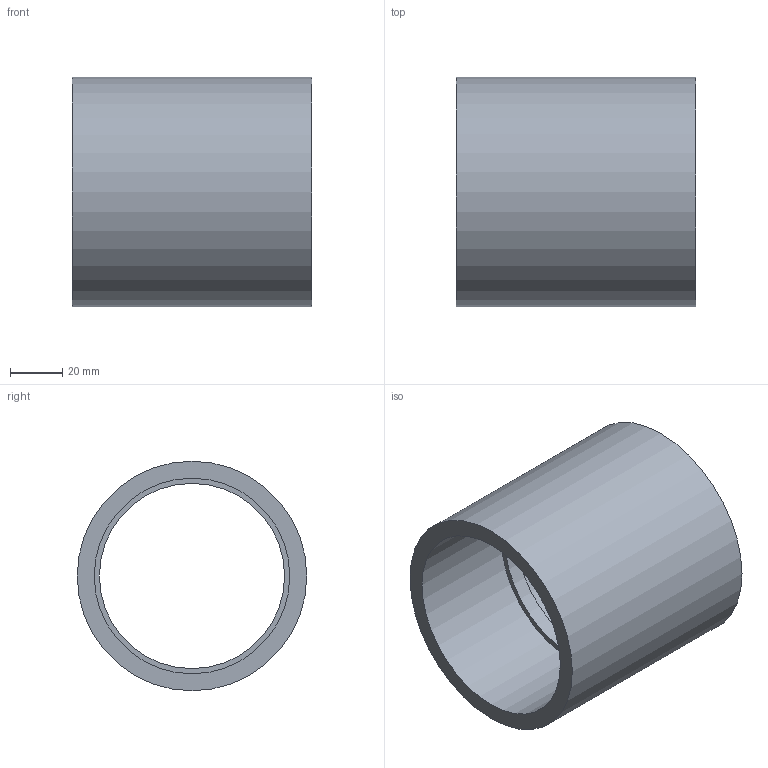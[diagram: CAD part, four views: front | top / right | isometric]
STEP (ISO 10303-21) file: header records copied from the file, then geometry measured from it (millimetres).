
FILE_DESCRIPTION(/* description */ ('PVC manicotti metrici incollaggio'),/* implementation_level */ '2;1');
FILE_NAME(/* name */ 'C:\Users\POLYPIPE\Desktop\DATASET INVENTOR\LIBRERIA EFFAST\RACCORDI 3DxWEB\RDR\3D_RDRMAD\3D_RDRMAD0750.stp',/* time_stamp */ '2018-01-19T14:39:07+01:00',/* author */ ('POLYPIPE'),/* organization */ ('Polypipe Italia s.r.l.'),/* preprocessor_version */ 'ST-DEVELOPER v16.1',/* originating_system */ 'Autodesk Inventor 2016',/* authorisation */ '');
FILE_SCHEMA (('CONFIG_CONTROL_DESIGN'));
Length unit declared in the file: millimetre
Products named in the file (1): 3D_RDRMAD
Bounding box: 92 x 88 x 88 mm (x, y, z)
Volume: 155863.8 mm3; surface area: 51281.8 mm2
Topology: 1 solids, 1 shells, 8 faces, 12 edges, 8 vertices
Faces by surface type: cylinder 4, plane 4
Full cylindrical faces by diameter (mm): 71 x1, 75 x2, 88 x1
Entity records: 192 total; most frequent: DIRECTION 34, CARTESIAN_POINT 25, AXIS2_PLACEMENT_3D 17, EDGE_LOOP 16, ORIENTED_EDGE 16, FACE_BOUND 8, FACE_OUTER_BOUND 8, CIRCLE 8
